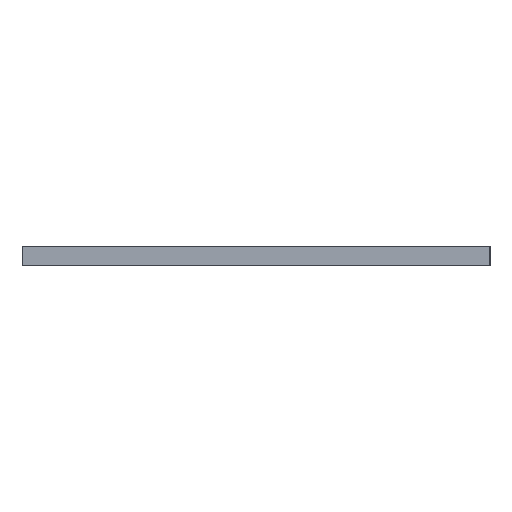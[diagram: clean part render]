
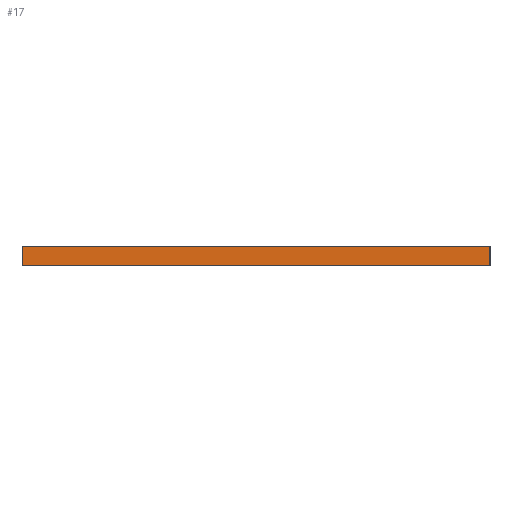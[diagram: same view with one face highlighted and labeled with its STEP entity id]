
A CAD part, left-side view. The second image highlights one B-rep face of the part: STEP entity #17.
In plain terms, the highlighted planar face has unit normal (-1, 0, 0).
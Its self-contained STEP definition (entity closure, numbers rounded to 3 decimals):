
#17 = ADVANCED_FACE('',(#18),#32,.F.);
#18 = FACE_BOUND('',#19,.F.);
#19 = EDGE_LOOP('',(#20,#55,#83,#111));
#20 = ORIENTED_EDGE('',*,*,#21,.F.);
#21 = EDGE_CURVE('',#22,#24,#26,.T.);
#22 = VERTEX_POINT('',#23);
#23 = CARTESIAN_POINT('',(-43.,-32.,95.));
#24 = VERTEX_POINT('',#25);
#25 = CARTESIAN_POINT('',(-43.,-32.,97.6));
#26 = SURFACE_CURVE('',#27,(#31,#43),.PCURVE_S1.);
#27 = LINE('',#28,#29);
#28 = CARTESIAN_POINT('',(-43.,-32.,95.));
#29 = VECTOR('',#30,1.);
#30 = DIRECTION('',(0.,0.,1.));
#31 = PCURVE('',#32,#37);
#32 = PLANE('',#33);
#33 = AXIS2_PLACEMENT_3D('',#34,#35,#36);
#34 = CARTESIAN_POINT('',(-43.,-32.,95.));
#35 = DIRECTION('',(1.,0.,0.));
#36 = DIRECTION('',(0.,0.,1.));
#37 = DEFINITIONAL_REPRESENTATION('',(#38),#42);
#38 = LINE('',#39,#40);
#39 = CARTESIAN_POINT('',(0.,0.));
#40 = VECTOR('',#41,1.);
#41 = DIRECTION('',(1.,0.));
#42 = ( GEOMETRIC_REPRESENTATION_CONTEXT(2) 
PARAMETRIC_REPRESENTATION_CONTEXT() REPRESENTATION_CONTEXT('2D SPACE',''
  ) );
#43 = PCURVE('',#44,#49);
#44 = PLANE('',#45);
#45 = AXIS2_PLACEMENT_3D('',#46,#47,#48);
#46 = CARTESIAN_POINT('',(-43.,-32.,95.));
#47 = DIRECTION('',(0.,1.,0.));
#48 = DIRECTION('',(0.,0.,1.));
#49 = DEFINITIONAL_REPRESENTATION('',(#50),#54);
#50 = LINE('',#51,#52);
#51 = CARTESIAN_POINT('',(0.,0.));
#52 = VECTOR('',#53,1.);
#53 = DIRECTION('',(1.,0.));
#54 = ( GEOMETRIC_REPRESENTATION_CONTEXT(2) 
PARAMETRIC_REPRESENTATION_CONTEXT() REPRESENTATION_CONTEXT('2D SPACE',''
  ) );
#55 = ORIENTED_EDGE('',*,*,#56,.T.);
#56 = EDGE_CURVE('',#22,#57,#59,.T.);
#57 = VERTEX_POINT('',#58);
#58 = CARTESIAN_POINT('',(-43.,32.,95.));
#59 = SURFACE_CURVE('',#60,(#64,#71),.PCURVE_S1.);
#60 = LINE('',#61,#62);
#61 = CARTESIAN_POINT('',(-43.,-32.,95.));
#62 = VECTOR('',#63,1.);
#63 = DIRECTION('',(0.,1.,0.));
#64 = PCURVE('',#32,#65);
#65 = DEFINITIONAL_REPRESENTATION('',(#66),#70);
#66 = LINE('',#67,#68);
#67 = CARTESIAN_POINT('',(0.,0.));
#68 = VECTOR('',#69,1.);
#69 = DIRECTION('',(0.,-1.));
#70 = ( GEOMETRIC_REPRESENTATION_CONTEXT(2) 
PARAMETRIC_REPRESENTATION_CONTEXT() REPRESENTATION_CONTEXT('2D SPACE',''
  ) );
#71 = PCURVE('',#72,#77);
#72 = PLANE('',#73);
#73 = AXIS2_PLACEMENT_3D('',#74,#75,#76);
#74 = CARTESIAN_POINT('',(-43.,-32.,95.));
#75 = DIRECTION('',(0.,0.,1.));
#76 = DIRECTION('',(1.,0.,0.));
#77 = DEFINITIONAL_REPRESENTATION('',(#78),#82);
#78 = LINE('',#79,#80);
#79 = CARTESIAN_POINT('',(0.,0.));
#80 = VECTOR('',#81,1.);
#81 = DIRECTION('',(0.,1.));
#82 = ( GEOMETRIC_REPRESENTATION_CONTEXT(2) 
PARAMETRIC_REPRESENTATION_CONTEXT() REPRESENTATION_CONTEXT('2D SPACE',''
  ) );
#83 = ORIENTED_EDGE('',*,*,#84,.T.);
#84 = EDGE_CURVE('',#57,#85,#87,.T.);
#85 = VERTEX_POINT('',#86);
#86 = CARTESIAN_POINT('',(-43.,32.,97.6));
#87 = SURFACE_CURVE('',#88,(#92,#99),.PCURVE_S1.);
#88 = LINE('',#89,#90);
#89 = CARTESIAN_POINT('',(-43.,32.,95.));
#90 = VECTOR('',#91,1.);
#91 = DIRECTION('',(0.,0.,1.));
#92 = PCURVE('',#32,#93);
#93 = DEFINITIONAL_REPRESENTATION('',(#94),#98);
#94 = LINE('',#95,#96);
#95 = CARTESIAN_POINT('',(0.,-64.));
#96 = VECTOR('',#97,1.);
#97 = DIRECTION('',(1.,0.));
#98 = ( GEOMETRIC_REPRESENTATION_CONTEXT(2) 
PARAMETRIC_REPRESENTATION_CONTEXT() REPRESENTATION_CONTEXT('2D SPACE',''
  ) );
#99 = PCURVE('',#100,#105);
#100 = PLANE('',#101);
#101 = AXIS2_PLACEMENT_3D('',#102,#103,#104);
#102 = CARTESIAN_POINT('',(-43.,32.,95.));
#103 = DIRECTION('',(0.,1.,0.));
#104 = DIRECTION('',(0.,0.,1.));
#105 = DEFINITIONAL_REPRESENTATION('',(#106),#110);
#106 = LINE('',#107,#108);
#107 = CARTESIAN_POINT('',(0.,0.));
#108 = VECTOR('',#109,1.);
#109 = DIRECTION('',(1.,0.));
#110 = ( GEOMETRIC_REPRESENTATION_CONTEXT(2) 
PARAMETRIC_REPRESENTATION_CONTEXT() REPRESENTATION_CONTEXT('2D SPACE',''
  ) );
#111 = ORIENTED_EDGE('',*,*,#112,.F.);
#112 = EDGE_CURVE('',#24,#85,#113,.T.);
#113 = SURFACE_CURVE('',#114,(#118,#125),.PCURVE_S1.);
#114 = LINE('',#115,#116);
#115 = CARTESIAN_POINT('',(-43.,-32.,97.6));
#116 = VECTOR('',#117,1.);
#117 = DIRECTION('',(0.,1.,0.));
#118 = PCURVE('',#32,#119);
#119 = DEFINITIONAL_REPRESENTATION('',(#120),#124);
#120 = LINE('',#121,#122);
#121 = CARTESIAN_POINT('',(2.6,0.));
#122 = VECTOR('',#123,1.);
#123 = DIRECTION('',(0.,-1.));
#124 = ( GEOMETRIC_REPRESENTATION_CONTEXT(2) 
PARAMETRIC_REPRESENTATION_CONTEXT() REPRESENTATION_CONTEXT('2D SPACE',''
  ) );
#125 = PCURVE('',#126,#131);
#126 = PLANE('',#127);
#127 = AXIS2_PLACEMENT_3D('',#128,#129,#130);
#128 = CARTESIAN_POINT('',(-43.,-32.,97.6));
#129 = DIRECTION('',(0.,0.,1.));
#130 = DIRECTION('',(1.,0.,0.));
#131 = DEFINITIONAL_REPRESENTATION('',(#132),#136);
#132 = LINE('',#133,#134);
#133 = CARTESIAN_POINT('',(0.,0.));
#134 = VECTOR('',#135,1.);
#135 = DIRECTION('',(0.,1.));
#136 = ( GEOMETRIC_REPRESENTATION_CONTEXT(2) 
PARAMETRIC_REPRESENTATION_CONTEXT() REPRESENTATION_CONTEXT('2D SPACE',''
  ) );
